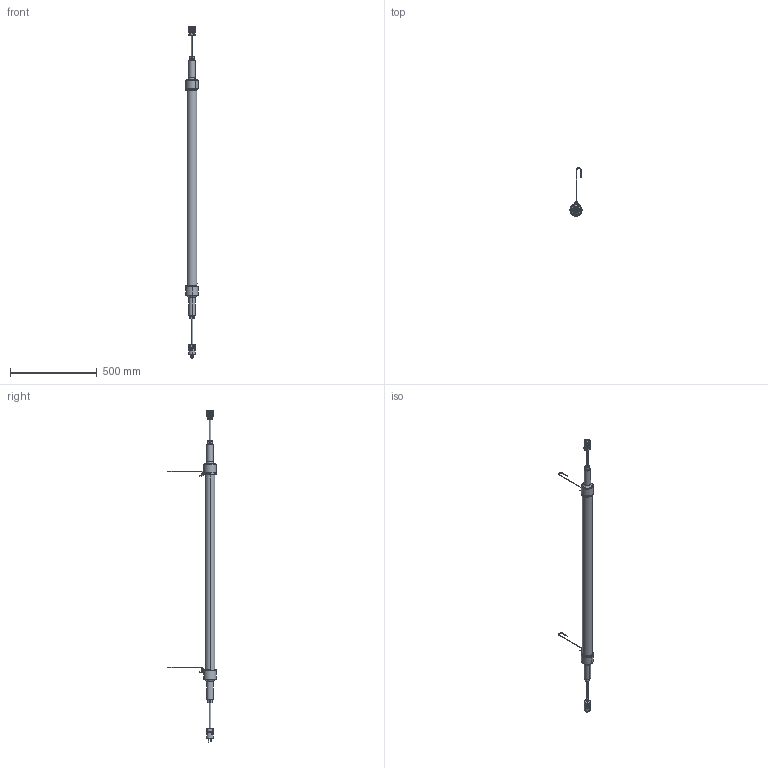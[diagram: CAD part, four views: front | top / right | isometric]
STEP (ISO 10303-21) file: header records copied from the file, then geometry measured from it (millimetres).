
FILE_DESCRIPTION (( 'STEP AP214' ), '1' );
FILE_NAME ('FTL-5-LED-ILC.STEP', '2015-07-08T19:29:22', ( '' ), ( '' ), 'SwSTEP 2.0', 'SolidWorks 2015', '' );
FILE_SCHEMA (( 'AUTOMOTIVE_DESIGN' ));
Length unit declared in the file: inch
Products named in the file (17): back upper piece; lower piece assembly; Binding Head Screw_AI_CR-BHMS 0.099-48x0.5x0.5-N; back lower piece; 15A 125V Assembly_female; FTL Hook; Clamp; Wall Plug; pan cross head_ai_CR-PHMS 0.112-40x0.75x0.75-S; binding head screw_ai_CR-BHMS 0.112-48x0.125x0.125-N; FTL Cord; FTL CGB; FTL Handle; FTL-5 Tube; FTL-5-LED-ILC
Assembly tree (25 placements, depth 4):
  FTL-5-LED-ILC
    FTL-5 Tube
    FTL Handle  x2
    FTL CGB  x2
    FTL Cord  x2
    Wall Plug
      Wall Plug
      binding head screw_ai_CR-BHMS 0.112-48x0.125x0.125-N  x3
      pan cross head_ai_CR-PHMS 0.112-40x0.75x0.75-S  x2
    Clamp  x2
    FTL Hook  x2
    15A 125V Assembly_female
      15A 125V Assembly_female
      lower piece assembly
        back lower piece
        Binding Head Screw_AI_CR-BHMS 0.099-48x0.5x0.5-N  x2
      back upper piece
Bounding box: 69.95 x 277.93 x 1916.63 mm (x, y, z)
Volume: 3658739.1 mm3; surface area: 391688.9 mm2
Topology: 27 solids, 27 shells, 1261 faces, 3059 edges, 1946 vertices
Faces by surface type: plane 547, cylinder 378, cone 258, torus 52, sphere 22, bspline 4
Entity records: 30941 total; most frequent: CARTESIAN_POINT 6725, DIRECTION 4915, ORIENTED_EDGE 4306, EDGE_CURVE 2153, AXIS2_PLACEMENT_3D 1882, VERTEX_POINT 1386, LINE 1151, VECTOR 1151
